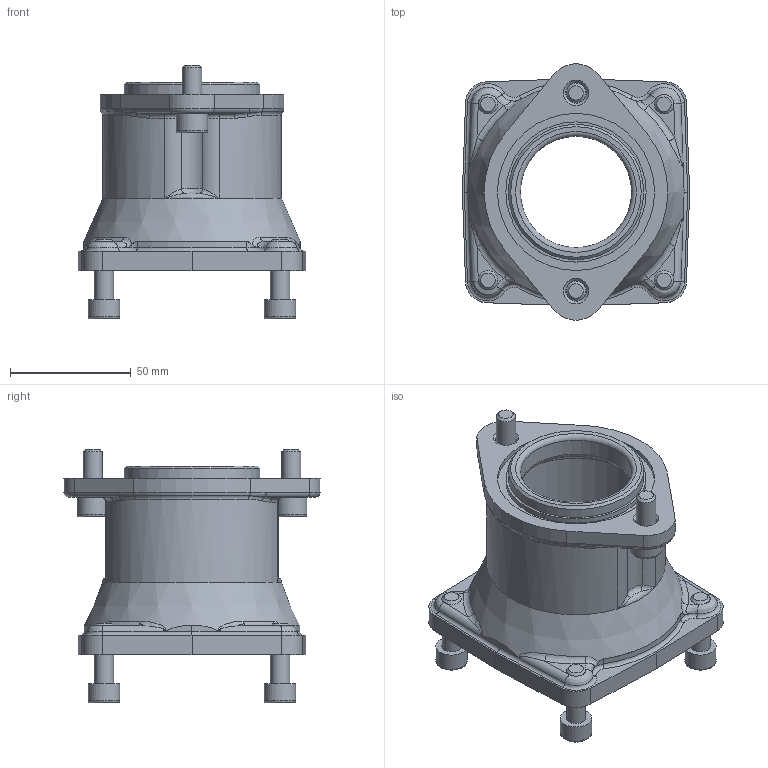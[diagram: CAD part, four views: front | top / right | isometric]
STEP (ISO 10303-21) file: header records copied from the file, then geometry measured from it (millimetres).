
FILE_DESCRIPTION(/* description */ (''),/* implementation_level */ '2;1');
FILE_NAME(/* name */ '3000010200_Semplifica_1.stp',/* time_stamp */ '2023-03-23T11:24:01+01:00',/* author */ ('marcop'),/* organization */ (''),/* preprocessor_version */ 'ST-DEVELOPER v19.2',/* originating_system */ 'Autodesk Inventor 2023',/* authorisation */ '');
FILE_SCHEMA (('AUTOMOTIVE_DESIGN { 1 0 10303 214 3 1 1 }'));
Length unit declared in the file: inch
Products named in the file (1): 3000010200_Semplifica_1
Bounding box: 94 x 105.92 x 105 mm (x, y, z)
Volume: 157380.9 mm3; surface area: 53230 mm2
Topology: 1 solids, 1 shells, 285 faces, 702 edges, 437 vertices
Faces by surface type: plane 123, cylinder 59, torus 42, cone 31, bspline 30
Full cylindrical faces by diameter (mm): 8 x6, 8.5 x2, 13 x6, 46 x1, 56 x1, 58 x1, 60 x1, 65 x1, 80 x1, 87 x1
Entity records: 10003 total; most frequent: CARTESIAN_POINT 3259, ORIENTED_EDGE 1384, DIRECTION 1291, EDGE_CURVE 692, AXIS2_PLACEMENT_3D 524, VERTEX_POINT 437, EDGE_LOOP 315, STYLED_ITEM 286
